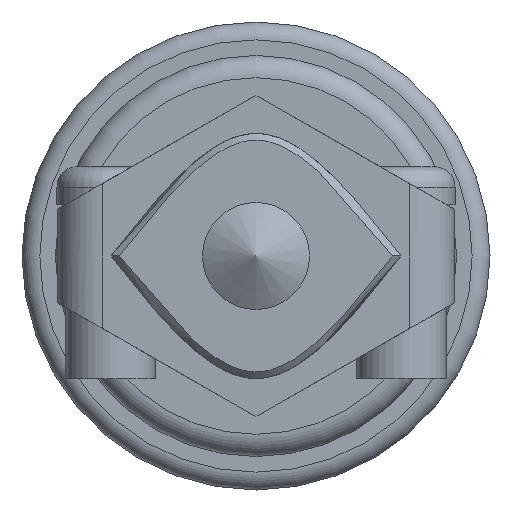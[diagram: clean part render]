
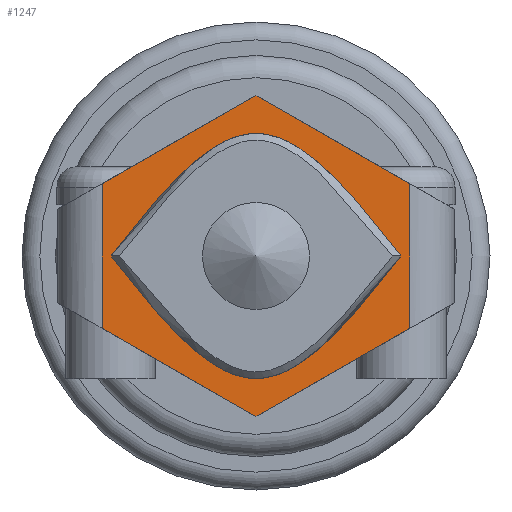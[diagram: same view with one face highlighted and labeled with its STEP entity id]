
A CAD part, left-side view. The second image highlights one B-rep face of the part: STEP entity #1247.
In plain terms, the highlighted planar face has unit normal (-1, 0, 0).
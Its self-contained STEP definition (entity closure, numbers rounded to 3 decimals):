
#26 = ORIENTED_EDGE ( 'NONE', *, *, #550, .F. ) ;
#31 = CARTESIAN_POINT ( 'NONE',  ( 25.913, 6.042, 25.844 ) ) ;
#33 = EDGE_CURVE ( 'NONE', #1655, #1806, #2226, .T. ) ;
#58 = EDGE_LOOP ( 'NONE', ( #1221, #2248, #2068, #1388, #688, #104 ) ) ;
#104 = ORIENTED_EDGE ( 'NONE', *, *, #33, .T. ) ;
#140 = CARTESIAN_POINT ( 'NONE',  ( 25.913, -11.758, 30.044 ) ) ;
#154 = CARTESIAN_POINT ( 'NONE',  ( 25.913, -2.858, 19.694 ) ) ;
#163 = EDGE_CURVE ( 'NONE', #1806, #1647, #1921, .T. ) ;
#166 = CARTESIAN_POINT ( 'NONE',  ( 25.913, -9.358, 27.944 ) ) ;
#177 = CARTESIAN_POINT ( 'NONE',  ( 25.913, -7.191, 30.694 ) ) ;
#180 = DIRECTION ( 'NONE',  ( 0., 0., 1. ) ) ;
#197 = CARTESIAN_POINT ( 'NONE',  ( 25.913, 4.042, 30.044 ) ) ;
#212 = EDGE_LOOP ( 'NONE', ( #691, #26 ) ) ;
#232 = VECTOR ( 'NONE', #180, 1000. ) ;
#250 = CARTESIAN_POINT ( 'NONE',  ( 25.913, 6.042, 30.044 ) ) ;
#255 = CARTESIAN_POINT ( 'NONE',  ( 25.913, -9.758, 24.698 ) ) ;
#315 = VECTOR ( 'NONE', #985, 1000. ) ;
#334 = CARTESIAN_POINT ( 'NONE',  ( 25.913, -9.358, 27.944 ) ) ;
#374 = DIRECTION ( 'NONE',  ( 0., 0., -1. ) ) ;
#413 = CARTESIAN_POINT ( 'NONE',  ( 25.913, 6.042, 30.044 ) ) ;
#426 = VECTOR ( 'NONE', #1958, 1000. ) ;
#445 = EDGE_CURVE ( 'NONE', #1023, #1454, #568, .T. ) ;
#481 = B_SPLINE_CURVE_WITH_KNOTS ( 'NONE', 3,
 ( #166, #177, #2227, #2045, #1356 ),
 .UNSPECIFIED., .F., .F.,
 ( 4, 1, 4 ),
 ( 0., 0.5, 1. ),
 .UNSPECIFIED. ) ;
#512 = DIRECTION ( 'NONE',  ( 0., 0.868, 0.497 ) ) ;
#523 = CARTESIAN_POINT ( 'NONE',  ( 25.913, 4.042, 31.19 ) ) ;
#543 = VECTOR ( 'NONE', #512, 1000. ) ;
#550 = EDGE_CURVE ( 'NONE', #1454, #1023, #481, .T. ) ;
#568 = B_SPLINE_CURVE_WITH_KNOTS ( 'NONE', 3,
 ( #1482, #1447, #154, #2194, #334 ),
 .UNSPECIFIED., .F., .F.,
 ( 4, 1, 4 ),
 ( 0., 0.5, 1. ),
 .UNSPECIFIED. ) ;
#571 = DIRECTION ( 'NONE',  ( 0., -0.868, -0.497 ) ) ;
#614 = VERTEX_POINT ( 'NONE', #964 ) ;
#688 = ORIENTED_EDGE ( 'NONE', *, *, #1109, .T. ) ;
#691 = ORIENTED_EDGE ( 'NONE', *, *, #445, .F. ) ;
#749 = VERTEX_POINT ( 'NONE', #2264 ) ;
#855 = EDGE_CURVE ( 'NONE', #614, #1701, #1339, .T. ) ;
#947 = DIRECTION ( 'NONE',  ( 1., 0., 0. ) ) ;
#958 = DIRECTION ( 'NONE',  ( 0., 0., 1. ) ) ;
#964 = CARTESIAN_POINT ( 'NONE',  ( 25.913, -2.858, 35.144 ) ) ;
#985 = DIRECTION ( 'NONE',  ( 0., 0.868, -0.497 ) ) ;
#996 = FACE_BOUND ( 'NONE', #212, .T. ) ;
#1023 = VERTEX_POINT ( 'NONE', #1966 ) ;
#1048 = VECTOR ( 'NONE', #571, 1000. ) ;
#1079 = VECTOR ( 'NONE', #374, 1000. ) ;
#1109 = EDGE_CURVE ( 'NONE', #1701, #1655, #1302, .T. ) ;
#1221 = ORIENTED_EDGE ( 'NONE', *, *, #163, .T. ) ;
#1247 = ADVANCED_FACE ( 'NONE', ( #1716, #996 ), #1525, .F. ) ;
#1302 = LINE ( 'NONE', #197, #1079 ) ;
#1339 = LINE ( 'NONE', #250, #315 ) ;
#1356 = CARTESIAN_POINT ( 'NONE',  ( 25.913, 3.642, 27.944 ) ) ;
#1388 = ORIENTED_EDGE ( 'NONE', *, *, #855, .T. ) ;
#1431 = EDGE_CURVE ( 'NONE', #1647, #749, #2022, .T. ) ;
#1447 = CARTESIAN_POINT ( 'NONE',  ( 25.913, 1.476, 25.194 ) ) ;
#1454 = VERTEX_POINT ( 'NONE', #2255 ) ;
#1480 = LINE ( 'NONE', #140, #543 ) ;
#1482 = CARTESIAN_POINT ( 'NONE',  ( 25.913, 3.642, 27.944 ) ) ;
#1525 = PLANE ( 'NONE',  #1664 ) ;
#1647 = VERTEX_POINT ( 'NONE', #255 ) ;
#1655 = VERTEX_POINT ( 'NONE', #1738 ) ;
#1664 = AXIS2_PLACEMENT_3D ( 'NONE', #413, #947, #958 ) ;
#1701 = VERTEX_POINT ( 'NONE', #523 ) ;
#1716 = FACE_OUTER_BOUND ( 'NONE', #58, .T. ) ;
#1737 = EDGE_CURVE ( 'NONE', #749, #614, #1480, .T. ) ;
#1738 = CARTESIAN_POINT ( 'NONE',  ( 25.913, 4.042, 24.698 ) ) ;
#1806 = VERTEX_POINT ( 'NONE', #2019 ) ;
#1845 = CARTESIAN_POINT ( 'NONE',  ( 25.913, -9.758, 30.044 ) ) ;
#1921 = LINE ( 'NONE', #2148, #426 ) ;
#1958 = DIRECTION ( 'NONE',  ( 0., -0.868, 0.497 ) ) ;
#1966 = CARTESIAN_POINT ( 'NONE',  ( 25.913, 3.642, 27.944 ) ) ;
#2019 = CARTESIAN_POINT ( 'NONE',  ( 25.913, -2.858, 20.744 ) ) ;
#2022 = LINE ( 'NONE', #1845, #232 ) ;
#2045 = CARTESIAN_POINT ( 'NONE',  ( 25.913, 1.476, 30.694 ) ) ;
#2068 = ORIENTED_EDGE ( 'NONE', *, *, #1737, .T. ) ;
#2148 = CARTESIAN_POINT ( 'NONE',  ( 25.913, -11.758, 25.844 ) ) ;
#2194 = CARTESIAN_POINT ( 'NONE',  ( 25.913, -7.191, 25.194 ) ) ;
#2226 = LINE ( 'NONE', #31, #1048 ) ;
#2227 = CARTESIAN_POINT ( 'NONE',  ( 25.913, -2.858, 36.194 ) ) ;
#2248 = ORIENTED_EDGE ( 'NONE', *, *, #1431, .T. ) ;
#2255 = CARTESIAN_POINT ( 'NONE',  ( 25.913, -9.358, 27.944 ) ) ;
#2264 = CARTESIAN_POINT ( 'NONE',  ( 25.913, -9.758, 31.19 ) ) ;
